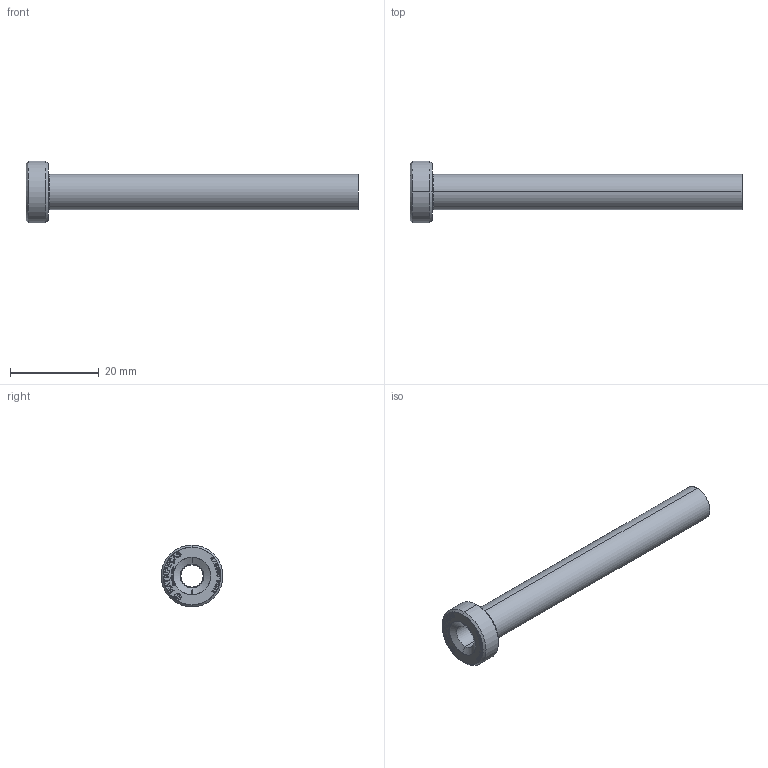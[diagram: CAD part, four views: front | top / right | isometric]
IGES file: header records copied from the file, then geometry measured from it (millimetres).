
Start section: SolidWorks IGES file using analytic representation for surfaces
Global section: file name: D:\TRIVECTOR\2026\08_Agosto\BE - BUCHA EXTRATORA (CATÁLOGO)\BE05,008075.IGS; native system: SolidWorks 2024; preprocessor: SolidWorks 2024; author: Usuario; date: 260824.165336; units: millimetre
Bounding box: 75 x 14 x 14 mm (x, y, z)
Surface area: 3442 mm2 (no closed solid volume)
Topology: 0 solids, 0 shells, 439 faces, 4430 edges, 4430 vertices
Faces by surface type: bspline 414, revolution 25
